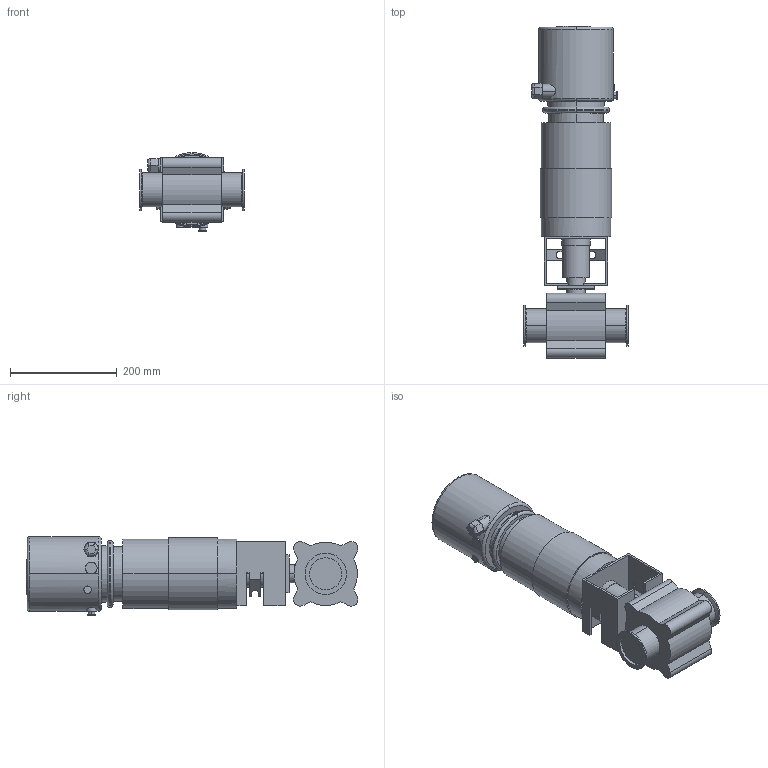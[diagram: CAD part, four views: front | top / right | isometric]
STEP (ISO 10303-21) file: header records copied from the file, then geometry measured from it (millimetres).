
FILE_DESCRIPTION(('Creo Elements/Direct Modeling STEP Export'),'2;1');
FILE_NAME('BLV1-2.5T-NC-12CL-CU4.stp','2019-05-10T 8:16:01',(''),(''),'Creo Elements/Direct Modeling STEP processor for AP214 (Solid Model)','Creo Elements/Direct Modeling 19.0F 14-Feb-2017 (C) Parametric Technology GmbH','');
FILE_SCHEMA(('AUTOMOTIVE_DESIGN { 1 0 10303 214 1 1 1 1 }'));
Length unit declared in the file: millimetre
Products named in the file (2): BLV1-2.5T-NC-12CL-CU4
Assembly tree (1 placements, depth 2):
  BLV1-2.5T-NC-12CL-CU4
    BLV1-2.5T-NC-12CL-CU4
Bounding box: 197 x 622.84 x 148 mm (x, y, z)
Volume: 7555467.1 mm3; surface area: 406955.3 mm2
Topology: 1 solids, 2 shells, 257 faces, 650 edges, 421 vertices
Faces by surface type: cylinder 123, plane 120, torus 10, cone 4
Entity records: 10599 total; most frequent: CARTESIAN_POINT 4517, ORIENTED_EDGE 1302, DIRECTION 1174, EDGE_CURVE 651, AXIS2_PLACEMENT_3D 430, VERTEX_POINT 421, VECTOR 314, LINE 314
